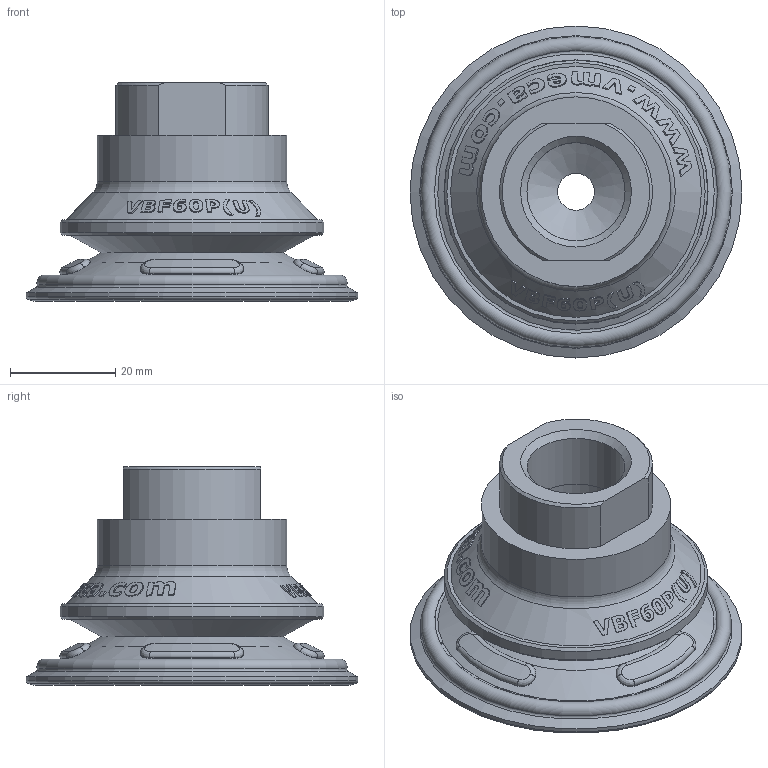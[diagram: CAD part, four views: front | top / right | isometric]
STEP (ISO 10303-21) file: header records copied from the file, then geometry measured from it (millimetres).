
FILE_DESCRIPTION( ( 'Unknown' ), '1' );
FILE_NAME( 'D:/濛機奢濰/Vacuum Pads/VBF/VBF60/STP/VBF60 P(U)_12F.stp', 'Unknown', ( 'Unknown' ), ( 'Unknown' ), 'XStep 1.0', 'Unknown', ' ' );
FILE_SCHEMA( ( 'automotive_design' ) );
Length unit declared in the file: millimetre
Products named in the file (1): 1
Bounding box: 63 x 63 x 41.5 mm (x, y, z)
Volume: 27076.2 mm3; surface area: 16544 mm2
Topology: 1 solids, 1 shells, 315 faces, 755 edges, 486 vertices
Faces by surface type: bspline 203, cone 58, plane 19, cylinder 18, torus 17
Full cylindrical faces by diameter (mm): 5 x8, 7 x1, 12 x1, 18.631 x2, 28 x1, 36 x1, 49.995 x1, 63 x1
Entity records: 21778 total; most frequent: CARTESIAN_POINT 13835, ORIENTED_EDGE 1414, EDGE_CURVE 707, B_SPLINE_CURVE_WITH_KNOTS 588, VERTEX_POINT 481, DIRECTION 456, EDGE_LOOP 404, FACE_OUTER_BOUND 344
